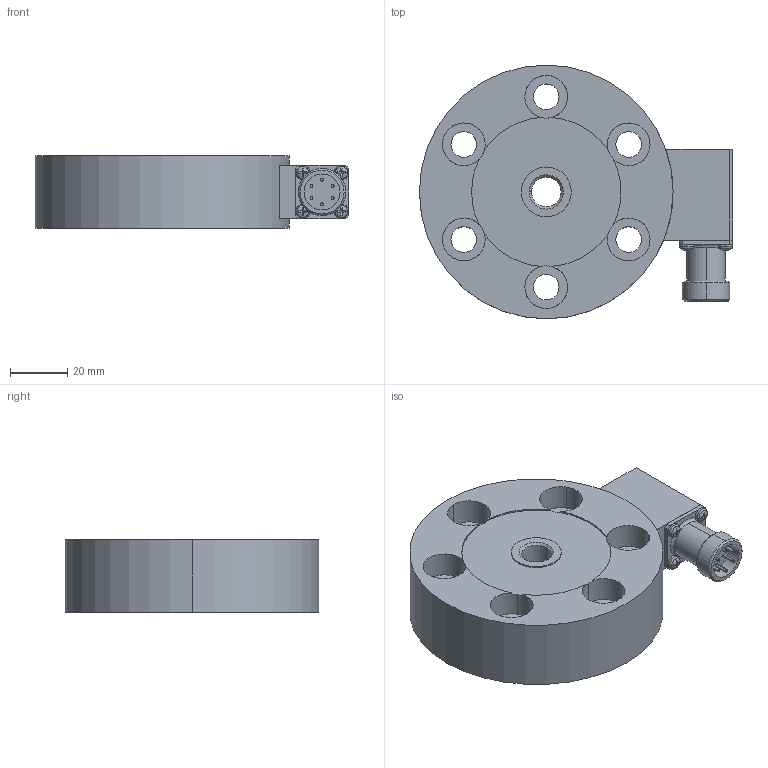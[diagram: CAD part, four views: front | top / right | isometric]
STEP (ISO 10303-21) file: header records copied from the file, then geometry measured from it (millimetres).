
FILE_DESCRIPTION(('STEP AP203'),'1');
FILE_NAME('C:/TPO v2/SharedFS/Outgoing/burster_85041-20_b4rnaou4p4ml528flnvzgc8xh.stp','2013-08-27T13:44:51',('TraceParts'),('TraceParts S.A.'),'XStep 1.0',' ',' ');
FILE_SCHEMA(('CONFIG_CONTROL_DESIGN'));
Length unit declared in the file: millimetre
Products named in the file (1): 1
Bounding box: 109.75 x 88.9 x 25.4 mm (x, y, z)
Volume: 152984.8 mm3; surface area: 28877.4 mm2
Topology: 1 solids, 1 shells, 188 faces, 473 edges, 300 vertices
Faces by surface type: plane 92, cylinder 62, torus 18, cone 16
Entity records: 6141 total; most frequent: CARTESIAN_POINT 1486, DIRECTION 1007, ORIENTED_EDGE 946, EDGE_CURVE 473, AXIS2_PLACEMENT_3D 405, VERTEX_POINT 300, CIRCLE 216, EDGE_LOOP 215
